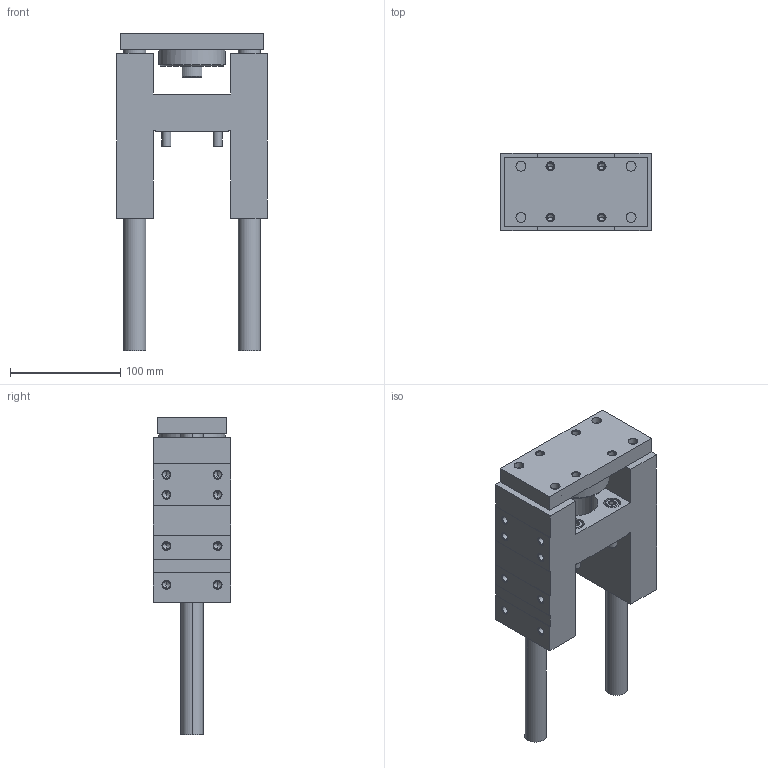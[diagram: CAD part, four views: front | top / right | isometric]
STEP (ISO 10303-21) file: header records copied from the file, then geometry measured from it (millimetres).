
FILE_DESCRIPTION (( 'STEP AP203' ), '1' );
FILE_NAME ('GB50-100.STEP', '2020-04-24T13:12:53', ( '' ), ( '' ), 'SwSTEP 2.0', 'SolidWorks 2019', '' );
FILE_SCHEMA (( 'CONFIG_CONTROL_DESIGN' ));
Length unit declared in the file: millimetre
Products named in the file (1): GB50-100
Bounding box: 137 x 70 x 288 mm (x, y, z)
Volume: 1039791.2 mm3; surface area: 181050.9 mm2
Topology: 6 solids, 6 shells, 377 faces, 852 edges, 480 vertices
Faces by surface type: cone 154, plane 117, cylinder 106
Entity records: 10863 total; most frequent: CARTESIAN_POINT 2350, DIRECTION 1902, ORIENTED_EDGE 1624, EDGE_CURVE 812, AXIS2_PLACEMENT_3D 744, VERTEX_POINT 480, EDGE_LOOP 440, LINE 414
